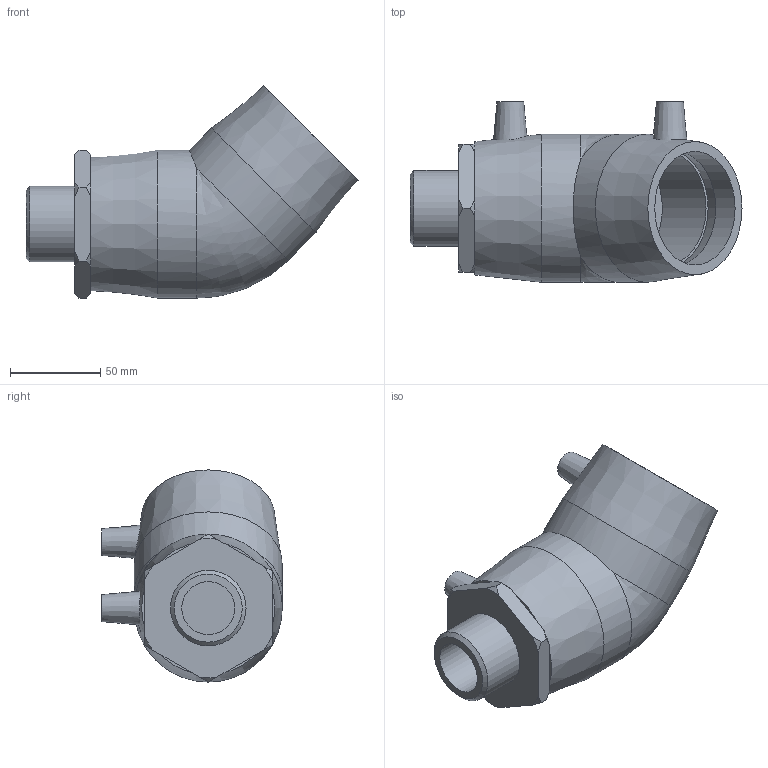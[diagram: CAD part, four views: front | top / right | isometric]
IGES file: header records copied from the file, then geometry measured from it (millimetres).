
Global section: file name: 492604063013.ipt; native system: Autodesk Inventor 2015; preprocessor: unknown; author: KIM; date: 20200202.122428; units: millimetre
Bounding box: 184 x 100 x 117.59 mm (x, y, z)
Volume: 477389.7 mm3; surface area: 85221.1 mm2
Topology: 1 solids, 2 shells, 59 faces, 142 edges, 97 vertices
Faces by surface type: plane 24, cone 17, revolution 10, cylinder 7, bspline 1
Full cylindrical faces by diameter (mm): 4 x2, 41.91 x1, 63 x2, 82 x2
